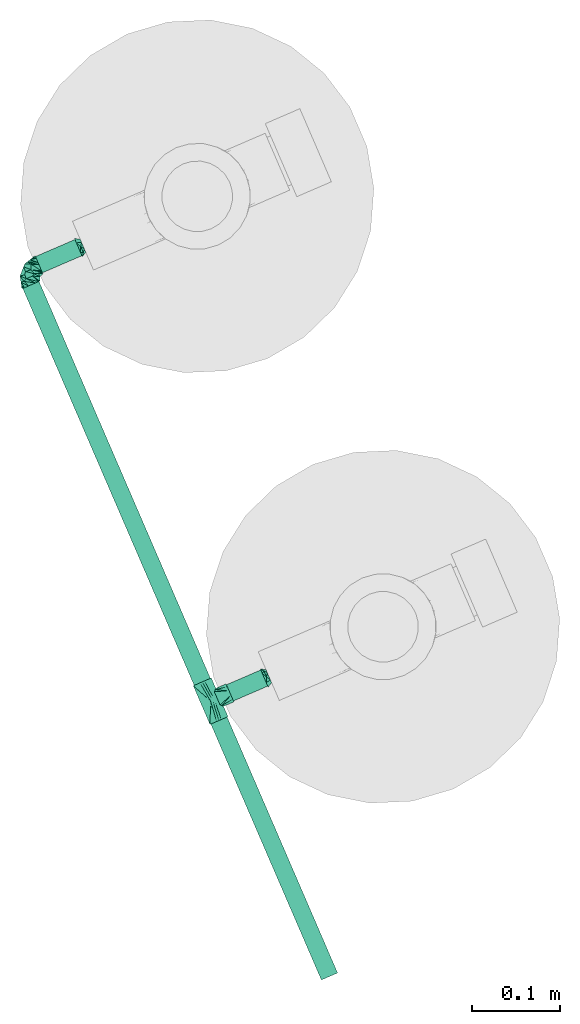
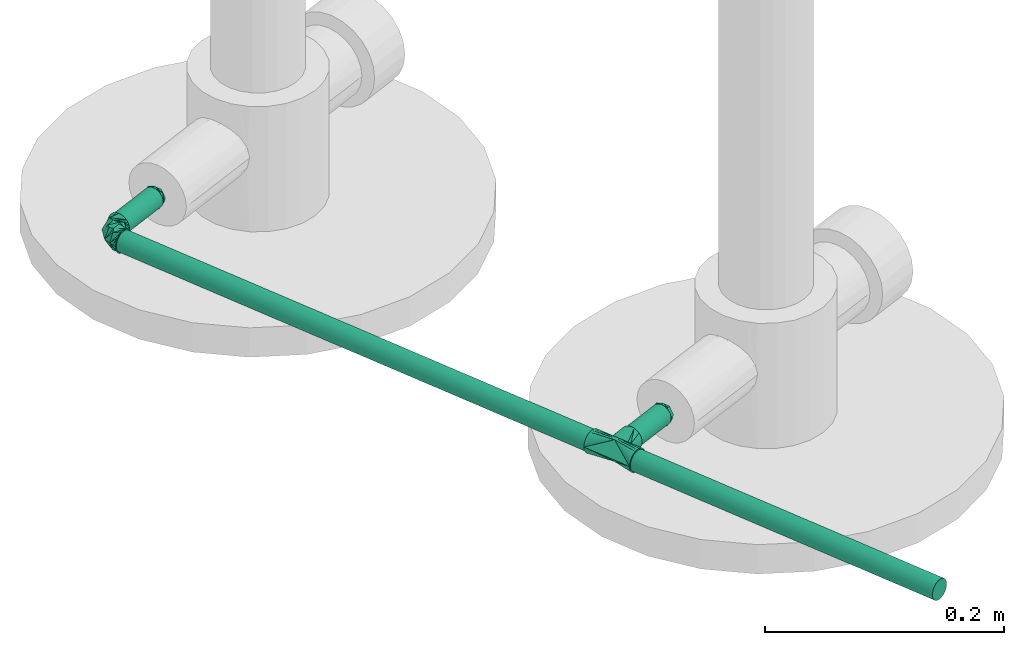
# One storey, part 2 of 2: 4 pipe fittings, 4 pipe segments.
"""IFC4 building model written with IfcOpenShell, lengths in metres."""

from ifc_helpers import new_model, entity, si_unit, converted_unit, derived_unit, direction, frame, origin, place, context, subcontext, project, spatial, arc, indexed_curve, outline, extrude, polygons, source, transform, mapped, material, type_object, type_shapes, element, save


model = new_model("IFC4")

# Units and contexts
model_context = context("Model", 3, precision=1e-05, world=origin(), true_north=direction((6.12323399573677e-17, 1.0)))
body_context = subcontext(model_context, "Body", "Model", "MODEL_VIEW")
ifc_project = project(units=[si_unit("LENGTHUNIT", "METRE"), si_unit("AREAUNIT", "SQUARE_METRE"), si_unit("VOLUMEUNIT", "CUBIC_METRE"), si_unit("PRESSUREUNIT", "PASCAL"), derived_unit("VOLUMETRICFLOWRATEUNIT", [(si_unit("LENGTHUNIT", "METRE", prefix="DECI"), 3), (si_unit("TIMEUNIT", "SECOND"), -1)]), converted_unit("PLANEANGLEUNIT", "DEGREE", entity("IfcPlaneAngleMeasure", 0.0174532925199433), si_unit("PLANEANGLEUNIT", "RADIAN"), dimensions=[0, 0, 0, 0, 0, 0, 0])], contexts=[model_context])

# Site, building, storey
site_placement = place(None, origin())
site = spatial("IfcSite", under=ifc_project, at=site_placement, Name="Default", CompositionType="ELEMENT")
building_placement = place(site_placement, frame((24.575451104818, -55.896759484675, 317.15), z_axis=(0.0, 0.0, 1.0), x_axis=(-0.396377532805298, 0.918087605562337, 0.0)))
building = spatial("IfcBuilding", under=site, at=building_placement, CompositionType="ELEMENT")
storey_placement = place(building_placement, frame((0.0, 0.0, 4.25000000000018)))
storey = spatial("IfcBuildingStorey", under=building, at=storey_placement, Name="Nivel 2", CompositionType="ELEMENT", Elevation=4.25000000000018)

# Pipe segments
ifc_material_1 = material(Name="Cobre", Category="Undefined")
pipe_segment_type = type_object("IfcPipeSegmentType", Name="Pipe Types:GAS", PredefinedType="NOTDEFINED")
pipe_segment_1_placement = place(storey_placement, origin())
element("IfcPipeSegment", 1, at=pipe_segment_1_placement, inside=storey, type_object=pipe_segment_type, material=ifc_material_1, Name="Pipe Types:GAS", ObjectType="Pipe Types:GAS", PredefinedType="NOTDEFINED", context=body_context, shape_type="SweptSolid", body=[
    extrude(outline(indexed_curve([(0.00999999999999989, 0.0), (0.00707106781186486, 0.00707106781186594), (0.0, 0.00999999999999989), (-0.00707106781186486, 0.00707106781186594), (-0.00999999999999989, 0.0), (-0.00707106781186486, -0.00707106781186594), (0.0, -0.00999999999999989), (0.00707106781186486, -0.00707106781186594)], segments=[arc(1, 2, 3), arc(3, 4, 5), arc(5, 6, 7), arc(7, 8, 1)], self_intersect=False)), frame((10.1053709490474, 38.6270121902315, 0.855500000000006), z_axis=(0.0, 1.0, 0.0), x_axis=(1.0, 0.0, 0.0)), (0.0, 0.0, 1.0), 0.0486255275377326),
])
pipe_segment_2_placement = place(storey_placement, origin())
element("IfcPipeSegment", 2, at=pipe_segment_2_placement, inside=storey, type_object=pipe_segment_type, material=ifc_material_1, Name="Pipe Types:GAS", ObjectType="Pipe Types:GAS", PredefinedType="NOTDEFINED", context=body_context, shape_type="SweptSolid", body=[
    extrude(outline(indexed_curve([(0.0100000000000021, 0.0), (0.00707106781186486, 0.00707106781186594), (0.0, 0.00999999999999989), (-0.00707106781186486, 0.00707106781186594), (-0.0100000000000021, 0.0), (-0.00707106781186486, -0.00707106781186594), (0.0, -0.00999999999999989), (0.00707106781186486, -0.00707106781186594)], segments=[arc(1, 2, 3), arc(3, 4, 5), arc(5, 6, 7), arc(7, 8, 1)], self_intersect=False)), frame((9.23600154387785, 38.6931002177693, 0.855500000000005), z_axis=(1.0, 0.0, 0.0), x_axis=(0.0, 1.0, 0.0)), (0.0, 0.0, 1.0), 0.315322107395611),
])
pipe_segment_3_placement = place(storey_placement, origin())
element("IfcPipeSegment", 3, at=pipe_segment_3_placement, inside=storey, type_object=pipe_segment_type, material=ifc_material_1, Name="Pipe Types:GAS", ObjectType="Pipe Types:GAS", PredefinedType="NOTDEFINED", context=body_context, shape_type="SweptSolid", body=[
    extrude(outline(indexed_curve([(0.00999999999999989, 0.0), (0.00707106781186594, 0.00707106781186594), (0.0, 0.00999999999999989), (-0.00707106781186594, 0.00707106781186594), (-0.00999999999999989, 0.0), (-0.00707106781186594, -0.00707106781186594), (0.0, -0.00999999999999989), (0.00707106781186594, -0.00707106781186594)], segments=[arc(1, 2, 3), arc(3, 4, 5), arc(5, 6, 7), arc(7, 8, 1)], self_intersect=False)), frame((9.57513615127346, 38.6270121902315, 0.855500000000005), z_axis=(0.0, 1.0, 0.0), x_axis=(-1.0, 0.0, 0.0)), (0.0, 0.0, 1.0), 0.0422755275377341),
])
pipe_segment_4_placement = place(storey_placement, origin())
element("IfcPipeSegment", 4, at=pipe_segment_4_placement, inside=storey, type_object=pipe_segment_type, material=ifc_material_1, Name="Pipe Types:GAS", ObjectType="Pipe Types:GAS", PredefinedType="NOTDEFINED", context=body_context, shape_type="SweptSolid", body=[
    extrude(outline(indexed_curve([(0.0100000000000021, 0.0), (0.00707106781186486, 0.00707106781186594), (0.0, 0.00999999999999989), (-0.00707106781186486, 0.00707106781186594), (-0.0100000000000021, 0.0), (-0.00707106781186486, -0.00707106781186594), (0.0, -0.00999999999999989), (0.00707106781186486, -0.00707106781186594)], segments=[arc(1, 2, 3), arc(3, 4, 5), arc(5, 6, 7), arc(7, 8, 1)], self_intersect=False)), frame((9.59894865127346, 38.6931002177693, 0.855500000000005), z_axis=(1.0, 0.0, 0.0), x_axis=(0.0, 1.0, 0.0)), (0.0, 0.0, 1.0), 0.488959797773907),
])

# Pipe fittings
ifc_material_2 = material(Name="<Unnamed>")
pipe_fitting_type_1 = type_object("IfcPipeFittingType", Name="M_Transición - Genérica:Norma", PredefinedType="NOTDEFINED", material=ifc_material_2)
shared_shape_1 = source(origin(), body_context, "Body", "Tessellation", [
    polygons([(0.00555625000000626, -0.0111125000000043, -4.0295957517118e-05), (0.00555625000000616, -0.00555625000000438, -0.0096640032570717), (0.00555625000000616, 0.00555624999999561, -0.00966400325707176), (0.00555625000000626, 0.0111124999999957, -4.02959575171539e-05), (0.00555625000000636, 0.00555624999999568, 0.00958341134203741), (0.00555625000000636, -0.00555625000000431, 0.00958341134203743), (6.26381199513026e-15, -0.0080875, 2.61314334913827e-17), (6.33577987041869e-15, -0.00404374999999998, 0.00700398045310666), (6.33577987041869e-15, 0.00404375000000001, 0.00700398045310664), (6.26381199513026e-15, 0.0080875, -5.22628669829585e-17), (6.19184411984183e-15, 0.00404374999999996, -0.00700398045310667), (6.19184411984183e-15, -0.00404375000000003, -0.00700398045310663), (0.00211556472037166, -0.00923928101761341, -1.5342849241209e-05), (0.00277812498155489, 6.79238755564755e-10, -0.00962014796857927), (0.00344068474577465, 0.00996071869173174, -2.49531044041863e-05), (0.00277812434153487, -0.00748871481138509, -0.00602673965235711), (0.00277812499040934, 0.00530118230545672, -0.00802373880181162), (0.0021260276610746, 0.00924497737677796, -1.54187303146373e-05), (0.00277812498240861, -6.76468328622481e-10, 0.00957985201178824), (0.00343022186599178, -0.00995502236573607, -2.48772237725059e-05), (0.00277812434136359, 0.00748698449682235, 0.00598860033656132), (0.00277812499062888, -0.00530118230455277, 0.00798344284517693)], [[[4, 5, 6, 1, 2, 3]], [[8, 9, 10, 11, 12, 7]], [[16, 1, 20, 13, 7]], [[12, 16, 7]], [[12, 11, 14]], [[2, 16, 14]], [[17, 10, 18, 15]], [[4, 3, 15]], [[17, 3, 14]], [[14, 11, 17]], [[14, 16, 12]], [[10, 17, 11]], [[3, 2, 14]], [[15, 3, 17]], [[1, 16, 2]], [[21, 4, 15, 18, 10]], [[9, 21, 10]], [[9, 8, 19]], [[5, 21, 19]], [[22, 7, 13, 20]], [[1, 6, 20]], [[22, 6, 19]], [[19, 8, 22]], [[19, 21, 9]], [[7, 22, 8]], [[6, 5, 19]], [[20, 6, 22]], [[4, 21, 5]]], closed=True),
])
type_shapes(pipe_fitting_type_1, [shared_shape_1])
pipe_fitting_1_placement = place(storey_placement, frame((10.1053709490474, 38.6214559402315, 0.855540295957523), z_axis=(0.0, 0.0, 1.0), x_axis=(0.0, 1.0, 0.0)))
element("IfcPipeFitting", 5, at=pipe_fitting_1_placement, inside=storey, type_object=pipe_fitting_type_1, material=ifc_material_2, Name="M_Transición - Genérica:Norma", ObjectType="M_Transición - Genérica:Norma", PredefinedType="NOTDEFINED", context=body_context, shape_type="MappedRepresentation", body=[
    mapped(shared_shape_1, transform((0.0, 0.0, 0.0), scale=1.0)),
])
pipe_fitting_type_2 = type_object("IfcPipeFittingType", Name="M_Codo - Genérico:Norma", PredefinedType="NOTDEFINED", material=ifc_material_2)
shared_shape_2 = source(origin(), body_context, "Body", "Tessellation", [
    polygons([(-0.0174624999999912, -0.0111125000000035, -1.903728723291e-15), (-0.0174624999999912, -0.0107338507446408, 0.00287612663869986), (-0.0174624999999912, -0.0096237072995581, 0.0055562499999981), (-0.0174624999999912, -0.00785772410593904, 0.00785772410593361), (-0.0174624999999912, -0.00555625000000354, 0.00962370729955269), (-0.0174624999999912, -0.00287612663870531, 0.0107338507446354), (-0.0174624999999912, -3.55315776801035e-15, 0.0111124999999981), (-0.0174624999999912, 0.00287612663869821, 0.0107338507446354), (-0.0174624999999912, 0.00555624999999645, 0.00962370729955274), (-0.0174624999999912, 0.00785772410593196, 0.00785772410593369), (-0.0174624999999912, 0.00962370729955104, 0.00555624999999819), (-0.0174624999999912, 0.0107338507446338, 0.00287612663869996), (-0.0174624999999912, 0.0111124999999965, -1.86782324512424e-15), (-0.0174624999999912, 0.0107338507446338, -0.00287612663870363), (-0.0174624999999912, 0.00962370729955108, -0.00555625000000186), (-0.0174624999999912, 0.00785772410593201, -0.00785772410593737), (-0.0174624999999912, 0.00555624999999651, -0.00962370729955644), (-0.0174624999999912, 0.00287612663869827, -0.0107338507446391), (-0.0174624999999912, -3.48759354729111e-15, -0.0111125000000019), (-0.0174624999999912, -0.00287612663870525, -0.0107338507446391), (-0.0174624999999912, -0.00555625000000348, -0.00962370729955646), (-0.0174624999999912, -0.00785772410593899, -0.0078577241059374), (-0.0174624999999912, -0.00962370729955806, -0.00555625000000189), (-0.0174624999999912, -0.0107338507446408, -0.00287612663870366), (0.0111125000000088, 0.0174624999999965, -1.89879378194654e-15), (0.010733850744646, 0.0174624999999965, -0.00287612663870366), (0.00962370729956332, 0.0174624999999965, -0.00555625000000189), (0.00785772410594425, 0.0174624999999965, -0.0078577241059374), (0.00555625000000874, 0.0174624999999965, -0.00962370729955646), (0.0028761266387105, 0.0174624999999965, -0.0107338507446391), (8.74542105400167e-15, 0.0174624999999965, -0.0111125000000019), (-0.00287612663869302, 0.0174624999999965, -0.0107338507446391), (-0.00555624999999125, 0.0174624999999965, -0.00962370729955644), (-0.00785772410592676, 0.0174624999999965, -0.00785772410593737), (-0.00962370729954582, 0.0174624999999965, -0.00555625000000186), (-0.0107338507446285, 0.0174624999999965, -0.00287612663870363), (-0.0111124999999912, 0.0174624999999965, -1.80588217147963e-15), (-0.0107338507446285, 0.0174624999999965, 0.00287612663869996), (-0.00962370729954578, 0.0174624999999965, 0.00555624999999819), (-0.00785772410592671, 0.0174624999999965, 0.00785772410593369), (-0.00555624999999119, 0.0174624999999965, 0.00962370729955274), (-0.00287612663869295, 0.0174624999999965, 0.0107338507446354), (8.81098527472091e-15, 0.0174624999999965, 0.0111124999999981), (0.00287612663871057, 0.0174624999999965, 0.0107338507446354), (0.0055562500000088, 0.0174624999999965, 0.00962370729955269), (0.0078577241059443, 0.0174624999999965, 0.00785772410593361), (0.00962370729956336, 0.0174624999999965, 0.0055562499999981), (0.010733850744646, 0.0174624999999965, 0.00287612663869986), (-0.0129723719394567, 0.0129723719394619, -1.79601228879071e-15), (-0.00317499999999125, -0.00728417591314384, -1.903728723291e-15), (0.00728417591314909, 0.00317499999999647, -1.903728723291e-15), (-0.0100511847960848, -0.00912664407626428, -1.903728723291e-15), (0.00912664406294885, 0.0100511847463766, -1.903728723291e-15), (-0.013756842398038, -0.0101195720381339, -1.903728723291e-15), (0.0101195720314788, 0.0137568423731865, -1.903728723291e-15), (-0.0156096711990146, -0.0106160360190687, -1.903728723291e-15), (0.0106160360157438, 0.0156096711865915, -1.903728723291e-15), (0.00205458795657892, -0.00205458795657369, -1.903728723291e-15), (-0.00555538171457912, 0.00884629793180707, 0.0107630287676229), (-0.00691389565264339, 0.00169494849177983, 0.011009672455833), (0.00190822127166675, 0.00896555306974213, 0.0104820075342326), (-0.00661309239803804, -0.00820540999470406, -1.903728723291e-15), (-0.00947063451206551, -0.00404538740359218, 0.00966608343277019), (0.00557118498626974, 0.0106586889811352, 0.00897323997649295), (-0.0129388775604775, 0.00860307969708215, 0.00818609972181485), (-0.00836753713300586, 0.00728984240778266, 0.0104364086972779), (-0.00044279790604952, 0.00110833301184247, 0.00926146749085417), (0.004669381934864, 0.00056020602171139, -1.903728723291e-15), (0.00194294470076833, 0.00415442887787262, 0.00930962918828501), (-0.000560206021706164, -0.00466938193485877, -1.903728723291e-15), (0.00820540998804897, 0.00661309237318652, -1.903728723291e-15), (-0.0055553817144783, 0.00884629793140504, -0.0107630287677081), (-0.00691389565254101, 0.00169494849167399, -0.0110096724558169), (0.0019082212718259, 0.00896555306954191, -0.0104820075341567), (-0.00947063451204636, -0.00404538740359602, -0.0096660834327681), (0.00557118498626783, 0.0106586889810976, -0.00897323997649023), (-0.012938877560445, 0.00860307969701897, -0.00818609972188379), (-0.00836753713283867, 0.00728984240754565, -0.010436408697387), (-0.000442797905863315, 0.00110833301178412, -0.00926146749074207), (0.00194294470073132, 0.00415442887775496, -0.00930962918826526)], [[[17, 18, 19, 20, 21, 22, 23, 24, 1, 2, 3, 4, 5, 6, 7, 8, 9, 10, 11, 12, 13, 14, 15, 16]], [[31, 32, 33, 34, 35, 36, 37, 38, 39, 40, 41, 42, 43, 44, 45, 46, 47, 48, 25, 26, 27, 28, 29, 30]], [[2, 56, 3]], [[6, 62, 7]], [[67, 69, 59]], [[39, 61, 40]], [[52, 5, 4]], [[3, 54, 4]], [[10, 63, 60]], [[5, 52, 6]], [[62, 50, 63]], [[63, 9, 8]], [[59, 66, 67]], [[6, 52, 62]], [[62, 63, 7]], [[63, 8, 7]], [[66, 65, 60]], [[44, 64, 53]], [[13, 12, 65]], [[64, 51, 71, 53]], [[2, 1, 56]], [[66, 49, 65]], [[63, 10, 9]], [[60, 50, 70]], [[49, 13, 65]], [[60, 70, 67]], [[51, 64, 61]], [[43, 64, 44]], [[53, 45, 44]], [[61, 69, 51]], [[42, 64, 43]], [[50, 60, 63]], [[55, 46, 53]], [[67, 70, 58, 68]], [[53, 46, 45]], [[51, 69, 68]], [[48, 57, 25]], [[11, 60, 65]], [[69, 61, 59]], [[52, 4, 54]], [[38, 37, 59]], [[67, 68, 69]], [[49, 59, 37]], [[55, 47, 46]], [[38, 59, 39]], [[47, 57, 48]], [[61, 41, 40]], [[56, 54, 3]], [[39, 59, 61]], [[55, 57, 47]], [[61, 64, 41]], [[41, 64, 42]], [[60, 11, 10]], [[60, 67, 66]], [[11, 65, 12]], [[49, 66, 59]], [[62, 19, 75]], [[68, 80, 51]], [[79, 78, 72]], [[73, 75, 16]], [[77, 78, 73]], [[35, 34, 74]], [[73, 16, 15]], [[58, 70, 79, 68]], [[14, 13, 77]], [[78, 49, 72]], [[49, 78, 77]], [[77, 73, 15]], [[56, 1, 24]], [[79, 70, 73]], [[22, 52, 54]], [[20, 19, 62]], [[72, 74, 80]], [[52, 22, 21]], [[21, 20, 52]], [[16, 75, 17]], [[68, 79, 80]], [[52, 20, 62]], [[72, 49, 37]], [[50, 73, 70]], [[37, 36, 72]], [[73, 78, 79]], [[53, 28, 55]], [[35, 72, 36]], [[51, 80, 74]], [[54, 23, 22]], [[76, 33, 32]], [[57, 55, 27]], [[54, 56, 23]], [[33, 74, 34]], [[23, 56, 24]], [[31, 76, 32]], [[53, 76, 30]], [[15, 14, 77]], [[29, 28, 53]], [[53, 30, 29]], [[30, 76, 31]], [[76, 74, 33]], [[27, 26, 57]], [[75, 19, 18]], [[51, 74, 76]], [[35, 74, 72]], [[18, 17, 75]], [[27, 55, 28]], [[50, 75, 73]], [[26, 25, 57]], [[76, 53, 71, 51]], [[75, 50, 62]], [[13, 49, 77]], [[80, 79, 72]]], closed=True),
])
type_shapes(pipe_fitting_type_2, [shared_shape_2])
pipe_fitting_2_placement = place(storey_placement, frame((10.1053709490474, 38.6931002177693, 0.855500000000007), z_axis=(0.0, 0.0, 1.0), x_axis=(0.0, 1.0, 0.0)))
element("IfcPipeFitting", 6, at=pipe_fitting_2_placement, inside=storey, type_object=pipe_fitting_type_2, material=ifc_material_2, Name="M_Codo - Genérico:Norma", ObjectType="M_Codo - Genérico:Norma", PredefinedType="NOTDEFINED", context=body_context, shape_type="MappedRepresentation", body=[
    mapped(shared_shape_2, transform((0.0, 0.0, 0.0), scale=1.0)),
])
pipe_fitting_type_3 = type_object("IfcPipeFittingType", Name="M_Te - Genérica:Norma", PredefinedType="NOTDEFINED", material=ifc_material_2)
shared_shape_3 = source(origin(), body_context, "Body", "Tessellation", [
    polygons([(-0.0238124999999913, -0.0111125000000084, -1.903728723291e-15), (-0.0238124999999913, -0.0107338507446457, 0.00287612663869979), (-0.0238124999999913, -0.00962370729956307, 0.00555624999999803), (-0.0238124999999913, -0.00785772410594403, 0.00785772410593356), (-0.0238124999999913, -0.00555625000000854, 0.00962370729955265), (-0.0238124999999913, -0.00287612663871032, 0.0107338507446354), (-0.0238124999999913, -8.56023581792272e-15, 0.0111124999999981), (-0.0238124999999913, 0.0028761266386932, 0.0107338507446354), (-0.0238124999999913, 0.00555624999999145, 0.00962370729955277), (-0.0238124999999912, 0.00785772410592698, 0.00785772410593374), (-0.0238124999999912, 0.00962370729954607, 0.00555624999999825), (-0.0238124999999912, 0.0107338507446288, 0.00287612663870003), (-0.0238124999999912, 0.0111124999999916, -1.79601228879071e-15), (-0.0238124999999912, 0.0107338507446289, -0.00287612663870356), (-0.0238124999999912, 0.00962370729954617, -0.0055562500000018), (-0.0238124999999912, 0.00785772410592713, -0.00785772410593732), (-0.0238124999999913, 0.00555624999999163, -0.0096237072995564), (-0.0238124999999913, 0.00287612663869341, -0.0107338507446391), (-0.0238124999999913, -8.35739460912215e-15, -0.0111125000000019), (-0.0238124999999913, -0.00287612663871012, -0.0107338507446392), (-0.0238124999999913, -0.00555625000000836, -0.00962370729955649), (-0.0238124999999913, -0.00785772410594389, -0.00785772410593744), (-0.0238124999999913, -0.00962370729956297, -0.00555625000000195), (-0.0238124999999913, -0.0107338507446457, -0.00287612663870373), (0.0238125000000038, -0.0111125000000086, -1.97060473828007e-15), (0.0238125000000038, -0.0107338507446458, -0.00287612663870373), (0.0238125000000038, -0.00962370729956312, -0.00555625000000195), (0.0238125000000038, -0.00785772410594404, -0.00785772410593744), (0.0238125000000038, -0.00555625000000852, -0.00962370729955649), (0.0238125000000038, -0.00287612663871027, -0.0107338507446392), (0.0238125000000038, -8.51041926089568e-15, -0.0111125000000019), (0.0238125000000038, 0.00287612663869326, -0.0107338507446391), (0.0238125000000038, 0.00555624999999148, -0.0096237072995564), (0.0238125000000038, 0.00785772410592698, -0.00785772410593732), (0.0238125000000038, 0.00962370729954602, -0.0055562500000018), (0.0238125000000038, 0.0107338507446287, -0.00287612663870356), (0.0238125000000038, 0.0111124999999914, -1.7367929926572e-15), (0.0238125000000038, 0.0107338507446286, 0.00287612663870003), (0.0238125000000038, 0.00962370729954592, 0.00555624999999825), (0.0238125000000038, 0.00785772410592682, 0.00785772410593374), (0.0238125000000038, 0.0055562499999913, 0.00962370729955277), (0.0238125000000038, 0.00287612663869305, 0.0107338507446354), (0.0238125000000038, -8.71326046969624e-15, 0.0111124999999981), (0.0238125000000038, -0.00287612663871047, 0.0107338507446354), (0.0238125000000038, -0.00555625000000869, 0.00962370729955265), (0.0238125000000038, -0.00785772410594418, 0.00785772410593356), (0.0238125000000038, -0.00962370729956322, 0.00555624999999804), (0.0238125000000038, -0.0107338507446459, 0.00287612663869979), (-0.0111124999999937, -0.0111125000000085, -1.903728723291e-15), (-0.0107094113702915, -0.0107094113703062, 0.00296583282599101), (-0.00961793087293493, -0.00961793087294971, 0.00556624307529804), (-0.00806374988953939, -0.00806374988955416, 0.00764614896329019), (-0.00622834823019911, -0.00622834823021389, 0.00920300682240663), (-0.00422731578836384, -0.00422731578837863, 0.0102770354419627), (-0.0021338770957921, -0.00213387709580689, 0.0109056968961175), (6.2730154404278e-15, -8.61700837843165e-15, 0.0111124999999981), (0.00213387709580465, -0.00213387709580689, 0.0109056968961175), (0.0042273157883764, -0.00422731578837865, 0.0102770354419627), (0.00622834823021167, -0.00622834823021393, 0.00920300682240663), (0.00806374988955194, -0.0080637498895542, 0.0076461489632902), (0.00961793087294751, -0.00961793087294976, 0.00556624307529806), (0.010709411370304, -0.0107094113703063, 0.00296583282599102), (0.0111125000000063, -0.0111125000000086, -1.89879378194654e-15), (0.010709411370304, -0.0107094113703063, -0.00296583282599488), (0.00961793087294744, -0.00961793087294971, -0.00556624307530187), (0.00806374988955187, -0.00806374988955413, -0.00764614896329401), (0.00622834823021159, -0.00622834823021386, -0.00920300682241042), (0.00422731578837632, -0.00422731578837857, -0.0102770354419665), (0.00213387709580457, -0.00213387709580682, -0.0109056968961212), (6.2730154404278e-15, -8.46351658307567e-15, -0.0111125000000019), (-0.00213387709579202, -0.0021338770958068, -0.0109056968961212), (-0.00422731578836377, -0.00422731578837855, -0.0102770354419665), (-0.00622834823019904, -0.00622834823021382, -0.00920300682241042), (-0.00806374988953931, -0.00806374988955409, -0.007646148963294), (-0.00961793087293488, -0.00961793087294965, -0.00556624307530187), (-0.0107094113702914, -0.0107094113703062, -0.00296583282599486), (-0.0111124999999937, -0.0238125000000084, -1.89879378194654e-15), (-0.010733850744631, -0.0238125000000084, -0.00287612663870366), (-0.00962370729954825, -0.0238125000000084, -0.00555625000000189), (-0.00785772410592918, -0.0238125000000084, -0.0078577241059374), (-0.00555624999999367, -0.0238125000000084, -0.00962370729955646), (-0.00287612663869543, -0.0238125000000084, -0.0107338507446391), (6.32632078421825e-15, -0.0238125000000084, -0.0111125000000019), (0.00287612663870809, -0.0238125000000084, -0.0107338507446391), (0.00555625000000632, -0.0238125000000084, -0.00962370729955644), (0.00785772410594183, -0.0238125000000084, -0.00785772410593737), (0.00962370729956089, -0.0238125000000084, -0.00555625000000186), (0.0107338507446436, -0.0238125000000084, -0.00287612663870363), (0.0111125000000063, -0.0238125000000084, -1.7367929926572e-15), (0.0107338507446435, -0.0238125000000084, 0.00287612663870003), (0.00962370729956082, -0.0238125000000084, 0.00555624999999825), (0.00785772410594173, -0.0238125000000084, 0.00785772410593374), (0.0055562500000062, -0.0238125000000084, 0.00962370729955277), (0.00287612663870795, -0.0238125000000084, 0.0107338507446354), (6.19035559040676e-15, -0.0238125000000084, 0.0111124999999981), (-0.00287612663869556, -0.0238125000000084, 0.0107338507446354), (-0.00555624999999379, -0.0238125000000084, 0.00962370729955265), (-0.00785772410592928, -0.0238125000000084, 0.00785772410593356), (-0.00962370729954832, -0.0238125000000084, 0.00555624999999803), (-0.010733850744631, -0.0238125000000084, 0.00287612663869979)], [[[19, 20, 21, 22, 23, 24, 1, 2, 3, 4, 5, 6, 7, 8, 9, 10, 11, 12, 13, 14, 15, 16, 17, 18]], [[32, 33, 34, 35, 36, 37, 38, 39, 40, 41, 42, 43, 44, 45, 46, 47, 48, 25, 26, 27, 28, 29, 30, 31]], [[25, 48, 63]], [[49, 2, 1]], [[48, 62, 63]], [[62, 48, 47]], [[62, 47, 61]], [[46, 45, 60]], [[60, 61, 46]], [[59, 60, 45]], [[46, 61, 47]], [[49, 50, 2]], [[2, 50, 3]], [[50, 51, 3]], [[52, 53, 5]], [[52, 4, 51]], [[4, 52, 5]], [[51, 4, 3]], [[5, 53, 6]], [[44, 59, 45]], [[44, 43, 58]], [[43, 57, 58]], [[57, 43, 42]], [[56, 57, 42]], [[44, 58, 59]], [[41, 40, 56]], [[56, 39, 38]], [[39, 56, 40]], [[42, 41, 56]], [[56, 38, 37]], [[7, 55, 8]], [[54, 7, 6]], [[7, 54, 55]], [[54, 6, 53]], [[55, 56, 8]], [[56, 12, 11]], [[11, 10, 56]], [[9, 8, 56]], [[56, 10, 9]], [[12, 56, 13]], [[56, 37, 13]], [[36, 70, 37]], [[34, 70, 35]], [[70, 36, 35]], [[70, 34, 33]], [[32, 31, 69]], [[31, 68, 69]], [[68, 31, 30]], [[68, 30, 67]], [[33, 32, 70]], [[69, 70, 32]], [[70, 17, 16]], [[14, 70, 15]], [[16, 15, 70]], [[70, 14, 13]], [[70, 71, 18]], [[71, 19, 18]], [[20, 19, 72]], [[72, 19, 71]], [[70, 18, 17]], [[13, 37, 70]], [[29, 28, 66]], [[66, 67, 29]], [[65, 66, 28]], [[28, 27, 65]], [[27, 26, 64]], [[26, 63, 64]], [[63, 26, 25]], [[24, 49, 1]], [[27, 64, 65]], [[73, 21, 20]], [[21, 74, 22]], [[74, 21, 73]], [[22, 74, 75]], [[73, 20, 72]], [[76, 49, 24]], [[75, 76, 23]], [[76, 24, 23]], [[75, 23, 22]], [[67, 30, 29]], [[83, 84, 85, 86, 87, 88, 89, 90, 91, 92, 93, 94, 95, 96, 97, 98, 99, 100, 77, 78, 79, 80, 81, 82]], [[100, 49, 77]], [[99, 50, 100]], [[51, 98, 97]], [[97, 96, 51]], [[99, 98, 50]], [[95, 52, 96]], [[50, 49, 100]], [[51, 50, 98]], [[60, 59, 53, 52]], [[58, 57, 55, 54]], [[54, 53, 59, 58]], [[51, 96, 52]], [[95, 60, 52]], [[93, 61, 94]], [[92, 61, 93]], [[62, 91, 90]], [[89, 63, 90]], [[92, 91, 62]], [[62, 90, 63]], [[56, 55, 57]], [[62, 61, 92]], [[61, 60, 94]], [[60, 95, 94]], [[88, 63, 89]], [[87, 64, 88]], [[65, 86, 85]], [[85, 84, 65]], [[87, 86, 64]], [[83, 66, 84]], [[64, 63, 88]], [[65, 64, 86]], [[74, 73, 67, 66]], [[72, 71, 69, 68]], [[68, 67, 73, 72]], [[65, 84, 66]], [[83, 74, 66]], [[81, 75, 82]], [[80, 75, 81]], [[76, 79, 78]], [[77, 49, 78]], [[80, 79, 76]], [[76, 78, 49]], [[70, 69, 71]], [[76, 75, 80]], [[75, 74, 82]], [[74, 83, 82]]], closed=True),
])
type_shapes(pipe_fitting_type_3, [shared_shape_3])
pipe_fitting_3_placement = place(storey_placement, frame((9.57513615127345, 38.6931002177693, 0.855500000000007)))
element("IfcPipeFitting", 7, at=pipe_fitting_3_placement, inside=storey, type_object=pipe_fitting_type_3, material=ifc_material_2, Name="M_Te - Genérica:Norma", ObjectType="M_Te - Genérica:Norma", PredefinedType="NOTDEFINED", context=body_context, shape_type="MappedRepresentation", body=[
    mapped(shared_shape_3, transform((0.0, 0.0, 0.0), scale=1.0)),
])
pipe_fitting_type_4 = type_object("IfcPipeFittingType", Name="M_Transición - Genérica:Norma", PredefinedType="NOTDEFINED", material=ifc_material_2)
shared_shape_4 = source(origin(), body_context, "Body", "Tessellation", [
    polygons([(0.00555625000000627, -0.00808750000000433, 4.02959575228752e-05), (0.00555625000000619, -0.00404375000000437, -0.00696368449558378), (0.00555625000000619, 0.00404374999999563, -0.00696368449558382), (0.00555625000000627, 0.00808749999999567, 4.02959575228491e-05), (0.00555625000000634, 0.00404374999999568, 0.00704427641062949), (0.00555625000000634, -0.00404375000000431, 0.00704427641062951), (6.26381199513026e-15, -0.0111125, 3.59054781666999e-17), (6.36269830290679e-15, -0.00555624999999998, 0.00962370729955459), (6.36269830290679e-15, 0.00555625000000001, 0.00962370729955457), (6.26381199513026e-15, 0.0111125, -7.18109563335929e-17), (6.16492568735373e-15, 0.00555624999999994, -0.00962370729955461), (6.16492568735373e-15, -0.00555625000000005, -0.00962370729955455), (0.0021155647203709, -0.00996071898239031, 1.5342849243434e-05), (0.00277812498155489, 6.79238756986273e-10, -0.00957985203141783), (0.00344068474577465, 0.0092392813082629, 2.4953104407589e-05), (0.00277812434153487, -0.00748871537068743, -0.00598644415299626), (0.00277812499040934, 0.00530118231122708, -0.00798344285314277), (0.00212602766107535, 0.00995502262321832, 1.5418730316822e-05), (0.00277812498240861, -6.76468332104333e-10, 0.00962014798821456), (0.00343022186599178, -0.00924497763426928, 2.4877223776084e-05), (0.00277812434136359, 0.00748698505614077, 0.00602889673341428), (0.00277812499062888, -0.00530118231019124, 0.00802373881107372)], [[[4, 5, 6, 1, 2, 3]], [[8, 9, 10, 11, 12, 7]], [[16, 1, 20, 13, 7]], [[12, 16, 7]], [[12, 11, 14]], [[2, 16, 14]], [[17, 10, 18, 15]], [[4, 3, 15]], [[17, 3, 14]], [[14, 11, 17]], [[14, 16, 12]], [[10, 17, 11]], [[3, 2, 14]], [[15, 3, 17]], [[1, 16, 2]], [[21, 4, 15, 18, 10]], [[9, 21, 10]], [[9, 8, 19]], [[5, 21, 19]], [[22, 7, 13, 20]], [[1, 6, 20]], [[22, 6, 19]], [[19, 8, 22]], [[19, 21, 9]], [[7, 22, 8]], [[6, 5, 19]], [[20, 6, 22]], [[4, 21, 5]]], closed=True),
])
type_shapes(pipe_fitting_type_4, [shared_shape_4])
pipe_fitting_4_placement = place(storey_placement, frame((9.57513615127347, 38.6270121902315, 0.855500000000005), z_axis=(0.0, 0.0, 1.0), x_axis=(0.0, -1.0, 0.0)))
element("IfcPipeFitting", 8, at=pipe_fitting_4_placement, inside=storey, type_object=pipe_fitting_type_4, material=ifc_material_2, Name="M_Transición - Genérica:Norma", ObjectType="M_Transición - Genérica:Norma", PredefinedType="NOTDEFINED", context=body_context, shape_type="MappedRepresentation", body=[
    mapped(shared_shape_4, transform((0.0, 0.0, 0.0), scale=1.0)),
])

save(model, "model.ifc")
